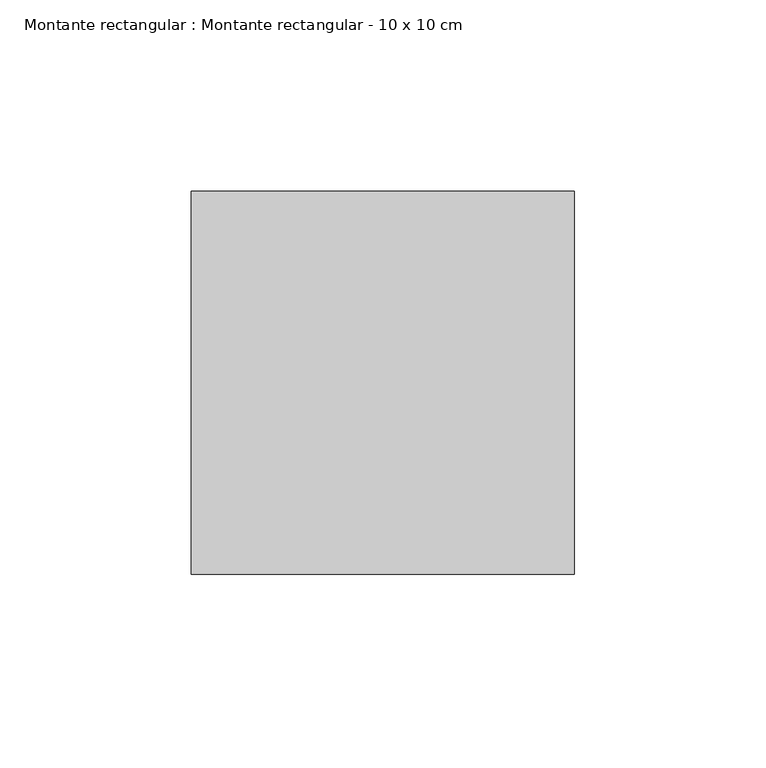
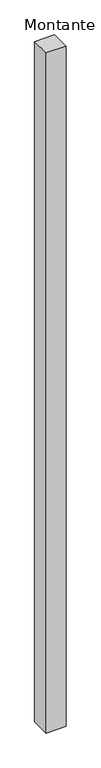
"""IFC4 building model written with IfcOpenShell, lengths in millimetres: member geometry, Montante rectangular : Montante rectangular - 10 x 10 cm."""

from ifc_helpers import new_model, si_unit, frame, origin, place, context, project, spatial, polyline, outline, extrude, source, transform, mapped, element, save


def montante_rectangular_montante_rectangular_10_x_10_cm_1b3596ad(model_context):
    return source(origin(), model_context, "Body", "SweptSolid", [
        extrude(outline(polyline([(0.0, -50.0), (-100.0, -50.0), (-100.0, 50.0), (0.0, 50.0), (0.0, -50.0)])), frame((0.0, 0.0, -3605.0), z_axis=(0.0, 0.0, 1.0), x_axis=(1.0, 0.0, 0.0)), (0.0, 0.0, 1.0), 3605.0),
    ])


if __name__ == "__main__":
    model = new_model("IFC4")
    model_context = context("Model", 3, world=origin())
    ifc_project = project(units=[si_unit("LENGTHUNIT", "METRE", prefix="MILLI")], contexts=[model_context])
    site = spatial("IfcSite", under=ifc_project)
    building = spatial("IfcBuilding", under=site)
    placement = place(None, origin())
    montante_rectangular_montante_rectangular_10_x_10_cm_shape = montante_rectangular_montante_rectangular_10_x_10_cm_1b3596ad(model_context)
    element("IfcMember", 1, ObjectType="Montante rectangular : Montante rectangular - 10 x 10 cm", at=placement, inside=building, context=model_context, shape_type="MappedRepresentation", body=[
        mapped(montante_rectangular_montante_rectangular_10_x_10_cm_shape, transform((0.0, 0.0, 0.0), x_axis=(1.0, 0.0, 0.0), y_axis=(0.0, 1.0, 0.0), z_axis=(0.0, 0.0, 1.0))),
    ])
    save(model, "model.ifc")
